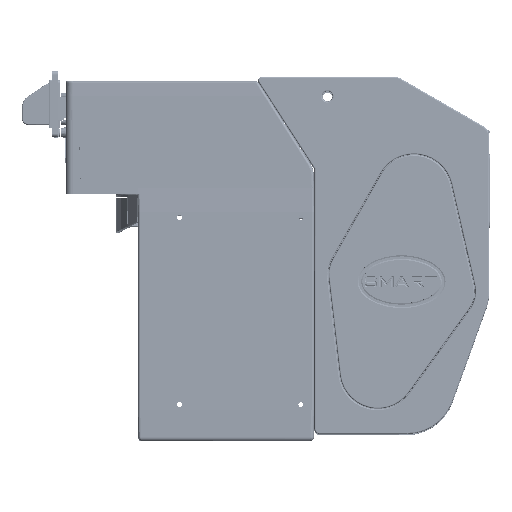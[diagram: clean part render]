
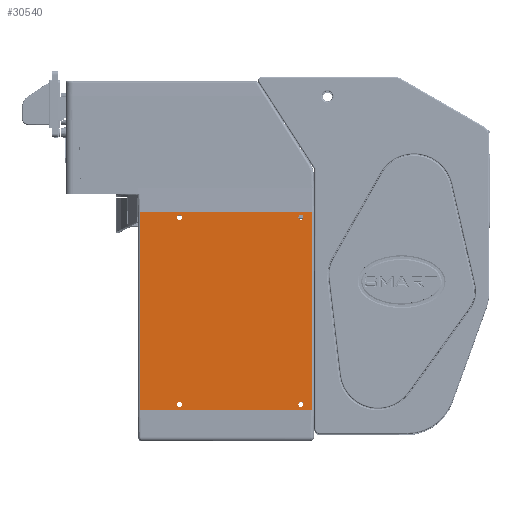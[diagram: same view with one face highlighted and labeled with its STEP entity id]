
A CAD part, top view. The second image highlights one B-rep face of the part: STEP entity #30540.
In plain terms, the highlighted planar face has unit normal (0, 0, 1).
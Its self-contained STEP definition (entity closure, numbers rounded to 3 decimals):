
#8497=FACE_BOUND('',#64523,.T.);
#8498=FACE_BOUND('',#64524,.T.);
#8499=FACE_BOUND('',#64525,.T.);
#8500=FACE_BOUND('',#64526,.T.);
#8501=FACE_BOUND('',#64527,.T.);
#19884=CIRCLE('',#258055,2.1);
#19886=CIRCLE('',#258058,2.1);
#19888=CIRCLE('',#258061,2.1);
#19925=CIRCLE('',#258171,2.1);
#30540=ADVANCED_FACE('',(#8497,#8498,#8499,#8500,#8501),#42364,.F.);
#42364=PLANE('',#258172);
#64523=EDGE_LOOP('',(#90797));
#64524=EDGE_LOOP('',(#90798));
#64525=EDGE_LOOP('',(#90799));
#64526=EDGE_LOOP('',(#90800));
#64527=EDGE_LOOP('',(#90801,#90802,#90803,#90804));
#90797=ORIENTED_EDGE('',*,*,#178878,.F.);
#90798=ORIENTED_EDGE('',*,*,#178880,.F.);
#90799=ORIENTED_EDGE('',*,*,#178882,.F.);
#90800=ORIENTED_EDGE('',*,*,#179090,.F.);
#90801=ORIENTED_EDGE('',*,*,#179088,.T.);
#90802=ORIENTED_EDGE('',*,*,#179071,.F.);
#90803=ORIENTED_EDGE('',*,*,#179091,.F.);
#90804=ORIENTED_EDGE('',*,*,#179092,.F.);
#153061=VERTEX_POINT('',#377721);
#153063=VERTEX_POINT('',#377726);
#153065=VERTEX_POINT('',#377731);
#153201=VERTEX_POINT('',#378123);
#153202=VERTEX_POINT('',#378124);
#153213=VERTEX_POINT('',#378157);
#153214=VERTEX_POINT('',#378161);
#153215=VERTEX_POINT('',#378163);
#178878=EDGE_CURVE('',#153061,#153061,#19884,.T.);
#178880=EDGE_CURVE('',#153063,#153063,#19886,.T.);
#178882=EDGE_CURVE('',#153065,#153065,#19888,.T.);
#179071=EDGE_CURVE('',#153201,#153202,#211636,.T.);
#179088=EDGE_CURVE('',#153213,#153202,#211649,.T.);
#179090=EDGE_CURVE('',#153214,#153214,#19925,.T.);
#179091=EDGE_CURVE('',#153215,#153201,#211650,.T.);
#179092=EDGE_CURVE('',#153213,#153215,#211651,.T.);
#211636=LINE('',#378122,#234215);
#211649=LINE('',#378156,#234228);
#211650=LINE('',#378162,#234229);
#211651=LINE('',#378164,#234230);
#234215=VECTOR('',#288082,1.);
#234228=VECTOR('',#288113,1.);
#234229=VECTOR('',#288120,1.);
#234230=VECTOR('',#288121,1.);
#258055=AXIS2_PLACEMENT_3D('',#377720,#287715,#287716);
#258058=AXIS2_PLACEMENT_3D('',#377725,#287721,#287722);
#258061=AXIS2_PLACEMENT_3D('',#377730,#287727,#287728);
#258171=AXIS2_PLACEMENT_3D('',#378160,#288118,#288119);
#258172=AXIS2_PLACEMENT_3D('',#378165,#288122,#288123);
#287715=DIRECTION('',(0.,0.,1.));
#287716=DIRECTION('',(1.,0.,0.));
#287721=DIRECTION('',(0.,0.,1.));
#287722=DIRECTION('',(1.,0.,0.));
#287727=DIRECTION('',(0.,0.,1.));
#287728=DIRECTION('',(1.,0.,0.));
#288082=DIRECTION('',(-1.,0.,0.));
#288113=DIRECTION('',(0.,-1.,0.));
#288118=DIRECTION('',(0.,0.,1.));
#288119=DIRECTION('',(1.,0.,0.));
#288120=DIRECTION('',(0.,-1.,0.));
#288121=DIRECTION('',(1.,0.,0.));
#288122=DIRECTION('',(0.,0.,-1.));
#288123=DIRECTION('',(-1.,0.,0.));
#377720=CARTESIAN_POINT('',(385.,280.25,57.1));
#377721=CARTESIAN_POINT('',(387.1,280.25,57.1));
#377725=CARTESIAN_POINT('',(485.57,280.25,57.1));
#377726=CARTESIAN_POINT('',(487.67,280.25,57.1));
#377730=CARTESIAN_POINT('',(485.57,125.2,57.1));
#377731=CARTESIAN_POINT('',(487.67,125.2,57.1));
#378122=CARTESIAN_POINT('',(494.7,120.45,57.1));
#378123=CARTESIAN_POINT('',(494.7,120.45,57.1));
#378124=CARTESIAN_POINT('',(352.5,120.45,57.1));
#378156=CARTESIAN_POINT('',(352.5,285.,57.1));
#378157=CARTESIAN_POINT('',(352.5,285.,57.1));
#378160=CARTESIAN_POINT('',(385.,125.2,57.1));
#378161=CARTESIAN_POINT('',(387.1,125.2,57.1));
#378162=CARTESIAN_POINT('',(494.7,285.,57.1));
#378163=CARTESIAN_POINT('',(494.7,285.,57.1));
#378164=CARTESIAN_POINT('',(352.5,285.,57.1));
#378165=CARTESIAN_POINT('',(352.5,285.,57.1));
